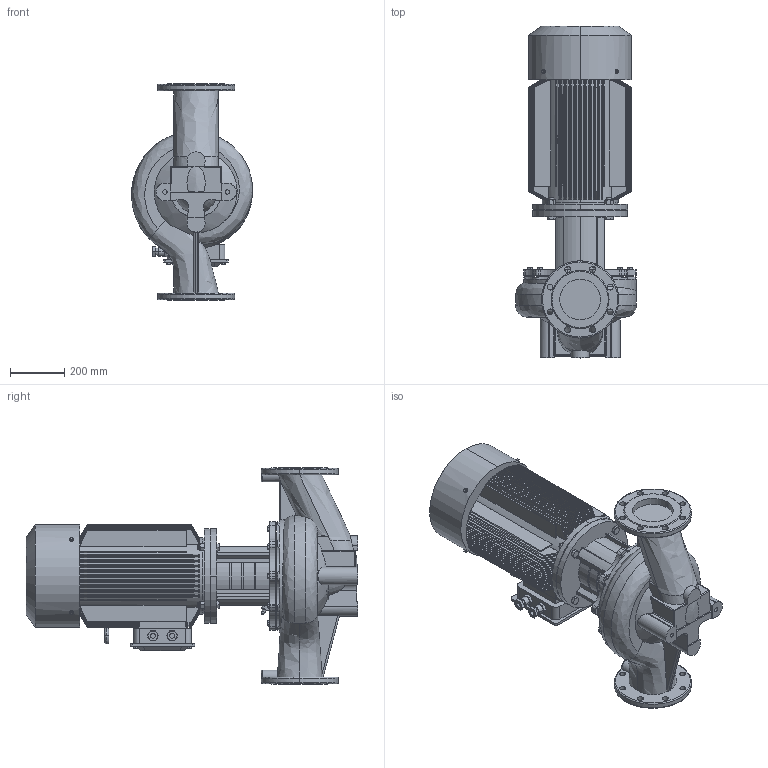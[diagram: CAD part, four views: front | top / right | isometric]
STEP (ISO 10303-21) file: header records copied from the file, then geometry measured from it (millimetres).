
FILE_DESCRIPTION(/* description */ (''),/* implementation_level */ '2;1');
FILE_NAME(/* name */ 'TD150-25-4安装尺寸图.stp',/* time_stamp */ '2026-09-07T16:42:50+08:00',/* author */ (''),/* organization */ (''),/* preprocessor_version */ 'ST-DEVELOPER v16.7',/* originating_system */ 'SIEMENS PLM Software NX 1847',/* authorisation */ '');
FILE_SCHEMA (('AP203_CONFIGURATION_CONTROLLED_3D_DESIGN_OF_MECHANICAL_PARTS_AND_ASSEMBLIES_MIM_LF { 1 0 10303 403 2 1 2}'));
Products named in the file (1): Admi55F8EAC4z4ox
Bounding box: 446.23 x 1225 x 800 mm (x, y, z)
Volume: 113788433.2 mm3; surface area: 5831666.7 mm2
Topology: 1 solids, 9 shells, 1545 faces, 3932 edges, 2479 vertices
Faces by surface type: plane 618, cylinder 438, cone 404, torus 48, bspline 35, sphere 2
Full cylindrical faces by diameter (mm): 8 x1, 10 x1, 11.701 x10, 12.9 x1, 16.63 x10, 17.623 x8, 25.34 x4, 305 x1, 320 x1
Entity records: 52820 total; most frequent: CARTESIAN_POINT 16823, ORIENTED_EDGE 7648, DIRECTION 7269, EDGE_CURVE 3824, AXIS2_PLACEMENT_3D 2937, VERTEX_POINT 2434, EDGE_LOOP 1748, ADVANCED_FACE 1545
